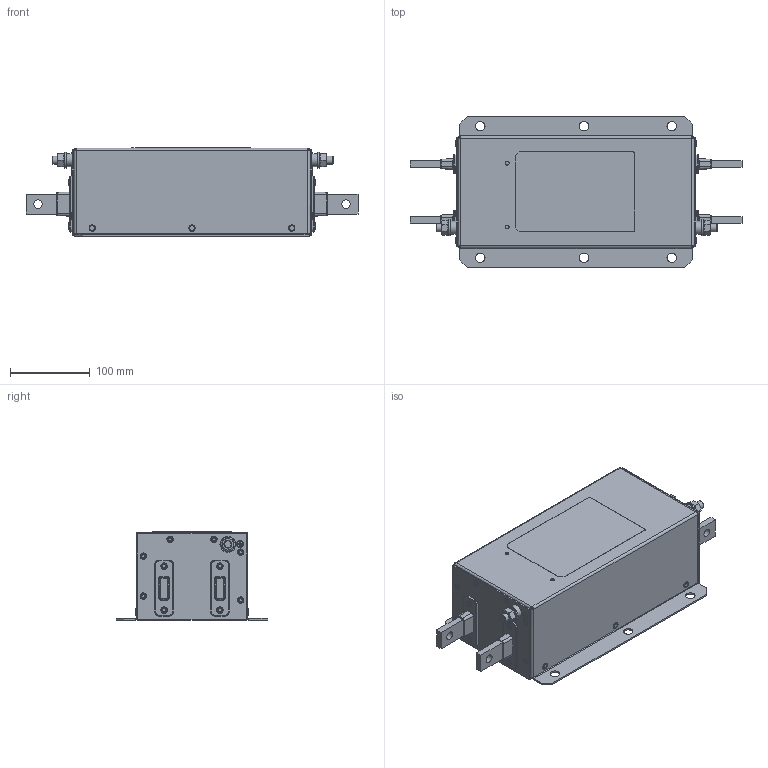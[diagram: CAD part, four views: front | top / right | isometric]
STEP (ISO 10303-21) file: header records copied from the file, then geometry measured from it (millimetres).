
FILE_DESCRIPTION((''),'2;1');
FILE_NAME('O:\Projekte\All Projects Folder (Designation_Customer)\FNxxx\FN2200 Serie\CAD\FN2200-600-99.stp','2011-02-01T14:14:41',('giovanni.asta'),(''),'Autodesk Inventor 2008','Autodesk Inventor 2008','');
FILE_SCHEMA(('AUTOMOTIVE_DESIGN { 1 0 10303 214 1 1 1 1 }'));
Length unit declared in the file: millimetre
Products named in the file (1): FN2200-600-99_forStep
Bounding box: 416 x 190 x 110.3 mm (x, y, z)
Volume: 599226.5 mm3; surface area: 489649.1 mm2
Topology: 1 solids, 17 shells, 1641 faces, 4133 edges, 2614 vertices
Faces by surface type: plane 677, cylinder 606, bspline 184, torus 122, cone 52
Full cylindrical faces by diameter (mm): 4 x38, 4.1 x3, 4.3 x9, 6 x4, 8 x27, 9 x1, 10 x14, 10.5 x6, 12 x3, 13 x1, 14.63 x2, 16.5 x2, 20 x2
Entity records: 53263 total; most frequent: CARTESIAN_POINT 12585, DIRECTION 8391, ORIENTED_EDGE 7774, EDGE_CURVE 3887, AXIS2_PLACEMENT_3D 3266, VERTEX_POINT 2574, EDGE_LOOP 2081, VECTOR 1859
